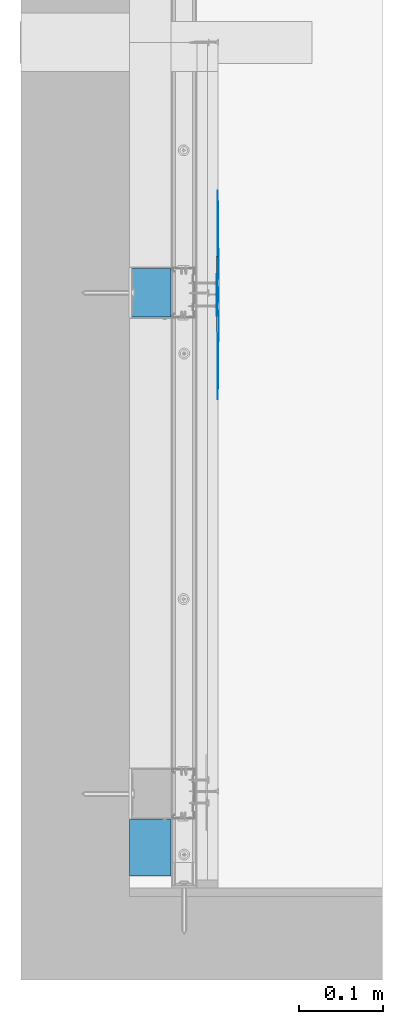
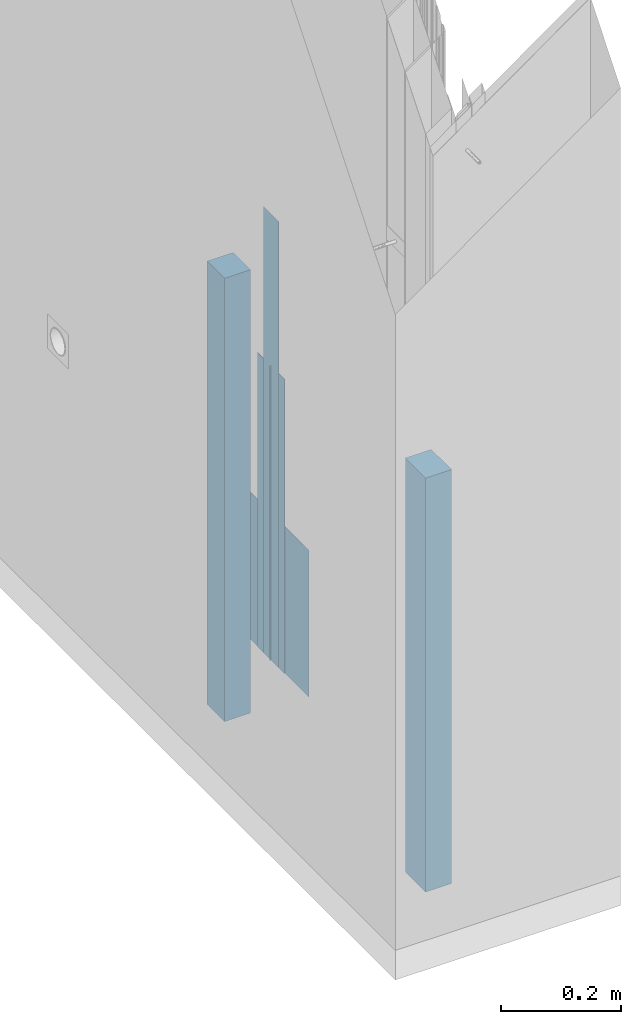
# One storey, part 5 of 61: 5 walls.
"""IFC2X3 building model written with IfcOpenShell, lengths in millimetres."""

from ifc_helpers import new_model, si_unit, frame, origin_with_axes, place, context, subcontext, project, spatial, faceted_brep, material, type_object, element, save


model = new_model("IFC2X3")

# Units and contexts
model_context = context("Model", 3, world=origin_with_axes())
body_context = subcontext(model_context, "Body", "Model", "MODEL_VIEW")
ifc_project = project(units=[si_unit("LENGTHUNIT", "METRE", prefix="MILLI"), si_unit("AREAUNIT", "SQUARE_METRE"), si_unit("VOLUMEUNIT", "CUBIC_METRE")], contexts=[model_context])

# Site, building, storey
site_placement = place(None, frame((2152.1410261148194, -2015.0250894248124, 57.61556563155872), z_axis=(0.0, 0.0, 1.0), x_axis=(-1.1102230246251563e-16, 1.0, 0.0)))
site = spatial("IfcSite", under=ifc_project, at=site_placement, Name="Default Site", CompositionType="ELEMENT")
building_placement = place(site_placement, origin_with_axes())
building = spatial("IfcBuilding", under=site, at=building_placement, Name="Default Building", CompositionType="ELEMENT")
storey_placement = place(building_placement, origin_with_axes())
storey = spatial("IfcBuildingStorey", under=building, at=storey_placement, Name="Default Building Storey", CompositionType="ELEMENT", Elevation=57.61556563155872)

# Walls
ifc_material_1 = material(Name="Undefined2")
wall_type_1 = type_object("IfcWallType", Name="Masa szpachlowa wykończeniowa RIGIPS", PredefinedType="NOTDEFINED")
wall_1_placement = place(storey_placement, frame((3572.9655867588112, 5306.736799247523, 9.938461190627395), z_axis=(0.0, 0.0, 1.0), x_axis=(1.0, 0.0, 0.0)))
element("IfcWall", 1, at=wall_1_placement, inside=storey, type_object=wall_type_1, material=ifc_material_1, Name="Masa szpachlowa wykończeniowa RIGIPS", context=body_context, shape_type="Brep", body=[
    faceted_brep([(-662.4571681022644, -3391.1967277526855, 2.449997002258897), (-712.4581933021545, -3391.5166854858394, 2.449997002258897), (-762.4602317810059, -3391.5166854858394, 2.449997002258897), (-812.461256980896, -3391.1967277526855, 2.449997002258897), (-862.4592423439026, -3390.556812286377, 2.449997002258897), (-612.4592423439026, -3390.556812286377, 2.449997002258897), (-712.4581933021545, -3391.5166854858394, 300.79999566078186), (-662.4571681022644, -3391.1967277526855, 300.79999566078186), (-612.4592423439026, -3390.556812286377, 300.79999566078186), (-862.4592423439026, -3390.556812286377, 300.79999566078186), (-812.461256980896, -3391.1967277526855, 300.79999566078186), (-762.4602317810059, -3391.5166854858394, 300.79999566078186)], [[[0, 1, 2, 3, 4, 5]], [[6, 7, 8, 9, 10, 11]], [[7, 0, 5, 8]], [[6, 1, 0, 7]], [[11, 2, 1, 6]], [[10, 3, 2, 11]], [[3, 10, 9, 4]], [[4, 9, 8, 5]]]),
])
ifc_material_2 = material(Name="Undefined8")
wall_type_2 = type_object("IfcWallType", Name="Taśma spoinowa RIGIPS#1", PredefinedType="NOTDEFINED")
wall_2_placement = place(storey_placement, frame((3572.96558675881, 5306.736799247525, 218.9384611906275), z_axis=(0.0, 0.0, 1.0), x_axis=(1.0, 0.0, 0.0)))
element("IfcWall", 2, at=wall_2_placement, inside=storey, type_object=wall_type_2, material=ifc_material_2, Name="Taśma spoinowa RIGIPS", context=body_context, shape_type="Brep", body=[
    faceted_brep([(-762.4592185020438, -3389.3566131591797, 700.8000016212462), (-762.4592185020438, -3389.8568153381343, 700.8000016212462), (-712.4592065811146, -3389.8568153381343, 700.8000016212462), (-712.4592065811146, -3389.3566131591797, 700.8000016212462), (-762.4592185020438, -3389.8568153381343, -206.5500029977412), (-762.4592185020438, -3389.3566131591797, -206.5500029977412), (-712.4592065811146, -3389.3566131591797, -206.5500029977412), (-712.4592065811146, -3389.8568153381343, -206.5500029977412)], [[[0, 1, 2, 3]], [[4, 5, 6, 7]], [[5, 0, 3, 6]], [[4, 1, 0, 5]], [[7, 2, 1, 4]], [[6, 3, 2, 7]]]),
])
ifc_material_3 = material(Name="Undefined")
wall_type_3 = type_object("IfcWallType", Name="Wypełnienie z wełny mineralnej szklanej ISOVER#14", PredefinedType="NOTDEFINED")
wall_3_placement = place(storey_placement, frame((1971.1842541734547, 5350.424146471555, -7.900000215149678), z_axis=(0.0, 0.0, 1.0), x_axis=(-1.0, 4.718447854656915e-16, 0.0)))
element("IfcWall", 3, at=wall_3_placement, inside=storey, type_object=wall_type_3, material=ifc_material_3, Name="Wypełnienie z wełny mineralnej szklanej ISOVER", context=body_context, shape_type="Brep", body=[
    faceted_brep([(-168.12478005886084, 3328.283263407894, 7.899999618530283), (-168.12478005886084, 3328.283263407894, 849.5436077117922), (-236.0028326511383, 3328.283263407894, 849.5436077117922), (-236.0028326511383, 3328.283263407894, 7.899999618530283), (-236.0028326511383, 3378.283168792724, 849.5436077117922), (-168.12478005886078, 3378.2831687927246, 849.5436077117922), (-168.12478005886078, 3378.2831687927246, 7.899999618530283), (-236.0028326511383, 3378.283168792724, 7.899999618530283)], [[[0, 1, 2, 3]], [[4, 5, 6, 7]], [[7, 6, 0, 3]]]),
    faceted_brep([(-168.12478005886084, 3328.283263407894, 7.899999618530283), (-168.12478005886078, 3378.2831687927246, 7.899999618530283), (-168.12478005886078, 3378.2831687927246, 849.5436077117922), (-168.12478005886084, 3328.283263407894, 849.5436077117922), (-236.0028326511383, 3328.283263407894, 849.5436077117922), (-236.0028326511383, 3378.283168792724, 849.5436077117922), (-236.0028326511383, 3378.283168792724, 7.899999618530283), (-236.0028326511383, 3328.283263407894, 7.899999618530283)], [[[0, 1, 2, 3]], [[4, 5, 6, 7]], [[5, 4, 3, 2]]]),
])
ifc_material_4 = material(Name="Default")
wall_type_4 = type_object("IfcWallType", Name="Wypełnienie z wełny mineralnej szklanej ISOVER#12", PredefinedType="NOTDEFINED")
wall_4_placement = place(storey_placement, frame((2641.062306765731, 5350.424146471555, -7.900000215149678), z_axis=(0.0, 0.0, 1.0), x_axis=(-1.0, 4.718447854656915e-16, 0.0)))
element("IfcWall", 4, at=wall_4_placement, inside=storey, type_object=wall_type_4, material=ifc_material_4, Name="Wypełnienie z wełny mineralnej szklanej ISOVER", context=body_context, shape_type="Brep", body=[
    faceted_brep([(-168.12478005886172, 3328.2832634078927, -51.71597384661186), (-168.12478005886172, 3328.2832634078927, 849.5436077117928), (-225.97478152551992, 3328.2832634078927, 849.5436077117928), (-225.97478152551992, 3328.2832634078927, -51.71597384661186), (-225.97478152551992, 3378.283168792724, 849.5436077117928), (-168.124780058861, 3378.283168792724, 849.5436077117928), (-168.124780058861, 3378.283168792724, -51.71597384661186), (-225.97478152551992, 3378.283168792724, -51.71597384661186)], [[[0, 1, 2, 3]], [[4, 5, 6, 7]], [[7, 6, 0, 3]]]),
    faceted_brep([(-168.12478005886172, 3328.2832634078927, -51.71597384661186), (-168.124780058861, 3378.283168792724, -51.71597384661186), (-168.124780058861, 3378.283168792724, 849.5436077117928), (-168.12478005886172, 3328.2832634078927, 849.5436077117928), (-225.97478152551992, 3328.2832634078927, 849.5436077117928), (-225.97478152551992, 3378.283168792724, 849.5436077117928), (-225.97478152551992, 3378.283168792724, -51.71597384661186), (-225.97478152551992, 3328.2832634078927, -51.71597384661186)], [[[0, 1, 2, 3]], [[4, 5, 6, 7]], [[5, 4, 3, 2]]]),
])
ifc_material_5 = material(Name="Undefined5")
wall_type_5 = type_object("IfcWallType", Name="Masa szpachlowa konstrukcyjna RIGIPS", PredefinedType="NOTDEFINED")
wall_5_placement = place(storey_placement, frame((2099.0471540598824, 5306.736799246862, 9.938461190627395), z_axis=(0.0, 0.0, 1.0), x_axis=(-1.0, 0.0, 0.0)))
element("IfcWall", 5, at=wall_5_placement, inside=storey, type_object=wall_type_5, material=ifc_material_5, Name="Masa szpachlowa konstrukcyjna RIGIPS", context=body_context, shape_type="Brep", body=[
    faceted_brep([(-737.4838590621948, 3387.669563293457, 600.7999777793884), (-737.4592423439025, 3387.356758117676, 600.7999777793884), (-737.4345660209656, 3387.669563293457, 600.7999777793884), (-737.3613119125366, 3387.974739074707, 600.7999777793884), (-737.2412085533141, 3388.2646560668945, 600.7999777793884), (-737.0772361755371, 3388.532400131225, 600.7999777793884), (-736.87344789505, 3388.770818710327, 600.7999777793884), (-736.6347908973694, 3388.9746665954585, 600.7999777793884), (-736.3672256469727, 3389.138698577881, 600.7999777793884), (-736.0772490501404, 3389.258861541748, 600.7999777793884), (-735.7720732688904, 3389.3320560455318, 600.7999777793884), (-735.4592084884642, 3389.3566131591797, 600.7999777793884), (-692.459225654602, 3389.3566131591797, 600.7999777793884), (-691.4592385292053, 3390.556812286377, 600.7999777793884), (-782.4591994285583, 3390.556812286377, 600.7999777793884), (-782.4591994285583, 3389.3566131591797, 600.7999777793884), (-739.459216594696, 3389.3566131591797, 600.7999777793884), (-739.14635181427, 3389.3320560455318, 600.7999777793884), (-738.84117603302, 3389.258861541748, 600.7999777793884), (-738.5512590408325, 3389.138698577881, 600.7999777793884), (-738.283634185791, 3388.9746665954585, 600.7999777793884), (-738.0449771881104, 3388.770818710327, 600.7999777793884), (-737.8411889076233, 3388.532400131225, 600.7999777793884), (-737.6772165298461, 3388.2646560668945, 600.7999777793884), (-737.5571131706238, 3387.974739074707, 600.7999777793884), (-691.4592385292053, 3390.556812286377, 2.449997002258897), (-692.459225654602, 3389.3566131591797, 2.449997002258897), (-735.4592084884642, 3389.3566131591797, 2.449997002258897), (-735.7720732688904, 3389.3320560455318, 2.449997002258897), (-736.0772490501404, 3389.258861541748, 2.449997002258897), (-736.3672256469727, 3389.138698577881, 2.449997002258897), (-736.6347908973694, 3388.9746665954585, 2.449997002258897), (-736.87344789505, 3388.770818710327, 2.449997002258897), (-737.0772361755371, 3388.532400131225, 2.449997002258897), (-737.2412085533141, 3388.2646560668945, 2.449997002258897), (-737.3613119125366, 3387.974739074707, 2.449997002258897), (-737.4345660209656, 3387.669563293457, 2.449997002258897), (-737.4592423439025, 3387.356758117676, 2.449997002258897), (-737.4838590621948, 3387.669563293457, 2.449997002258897), (-737.5571131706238, 3387.974739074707, 2.449997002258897), (-737.6772165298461, 3388.2646560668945, 2.449997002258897), (-737.8411889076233, 3388.532400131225, 2.449997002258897), (-738.0449771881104, 3388.770818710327, 2.449997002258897), (-738.283634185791, 3388.9746665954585, 2.449997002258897), (-738.5512590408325, 3389.138698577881, 2.449997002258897), (-738.84117603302, 3389.258861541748, 2.449997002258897), (-739.14635181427, 3389.3320560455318, 2.449997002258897), (-739.459216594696, 3389.3566131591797, 2.449997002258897), (-782.4591994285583, 3389.3566131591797, 2.449997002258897), (-782.4591994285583, 3390.556812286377, 2.449997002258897)], [[[0, 1, 2, 3, 4, 5, 6, 7, 8, 9, 10, 11, 12, 13, 14, 15, 16, 17, 18, 19, 20, 21, 22, 23, 24]], [[25, 26, 27, 28, 29, 30, 31, 32, 33, 34, 35, 36, 37, 38, 39, 40, 41, 42, 43, 44, 45, 46, 47, 48, 49]], [[26, 12, 11, 27]], [[10, 9, 29, 28]], [[28, 27, 11, 10]], [[8, 30, 29, 9]], [[7, 6, 32, 31]], [[31, 30, 8, 7]], [[5, 4, 34, 33]], [[33, 32, 6, 5]], [[3, 35, 34, 4]], [[2, 1, 37, 36]], [[36, 35, 3, 2]], [[0, 24, 39, 38]], [[38, 37, 1, 0]], [[23, 40, 39, 24]], [[22, 21, 42, 41]], [[41, 40, 23, 22]], [[20, 19, 44, 43]], [[43, 42, 21, 20]], [[18, 45, 44, 19]], [[17, 16, 47, 46]], [[46, 45, 18, 17]], [[47, 16, 15, 48]], [[48, 15, 14, 49]], [[49, 14, 13, 25]], [[25, 13, 12, 26]]]),
])

save(model, "model.ifc")
